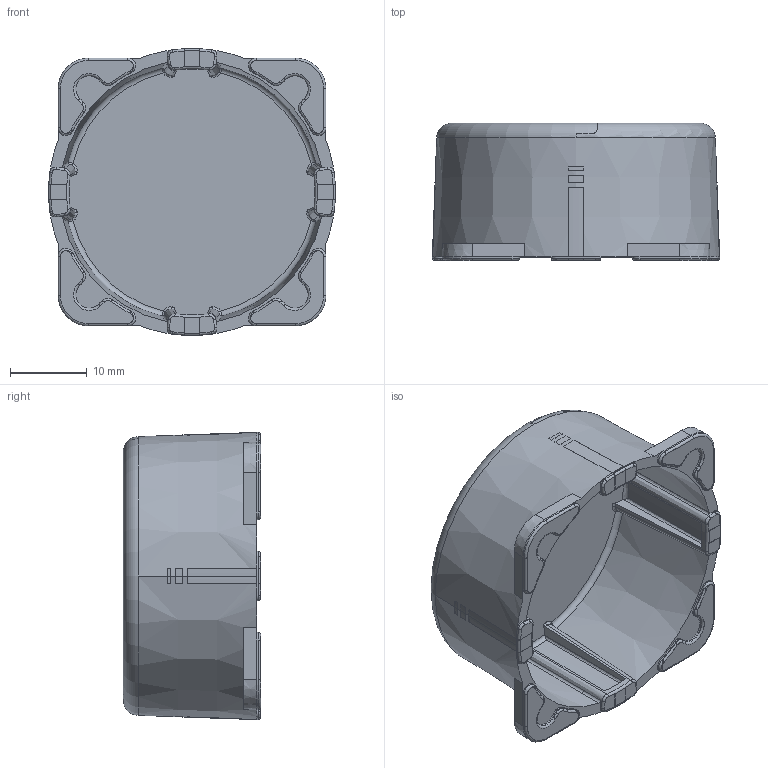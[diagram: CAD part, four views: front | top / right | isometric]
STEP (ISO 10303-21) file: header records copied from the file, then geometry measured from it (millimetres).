
FILE_DESCRIPTION((''),'2;1');
FILE_NAME('9002418L0-L16L-NTN_CAP_ANT_ASM','2025-02-18T00:37:16',('sproust'),(''),'CREO PARAMETRIC BY PTC INC, 2023072','CREO PARAMETRIC BY PTC INC, 2023072','');
FILE_SCHEMA(('AUTOMOTIVE_DESIGN { 1 0 10303 214 1 1 1 1 }'));
Length unit declared in the file: millimetre
Products named in the file (4): 9002129-CAP_ANTENNA_CARRIER; 9002418L0-L16L_PATTERN; 9002418L0-L16L-PAD_PRINT_LOGO; 9002418L0-L16L-NTN_CAP_ANT_ASM
Assembly tree (3 placements, depth 2):
  9002418L0-L16L-NTN_CAP_ANT_ASM
    9002129-CAP_ANTENNA_CARRIER
    9002418L0-L16L_PATTERN
    9002418L0-L16L-PAD_PRINT_LOGO
Bounding box: 37.52 x 17.97 x 37.52 mm (x, y, z)
Volume: 4604.5 mm3; surface area: 7077.2 mm2
Topology: 51 solids, 51 shells, 973 faces, 2359 edges, 1488 vertices
Faces by surface type: plane 394, extrusion 161, torus 122, bspline 117, cone 106, cylinder 73
Entity records: 42185 total; most frequent: CARTESIAN_POINT 13123, ORIENTED_EDGE 4718, DIRECTION 3827, PRESENTATION_STYLE_ASSIGNMENT 2410, STYLED_ITEM 2410, CURVE_STYLE 2359, EDGE_CURVE 2359, VERTEX_POINT 1488
